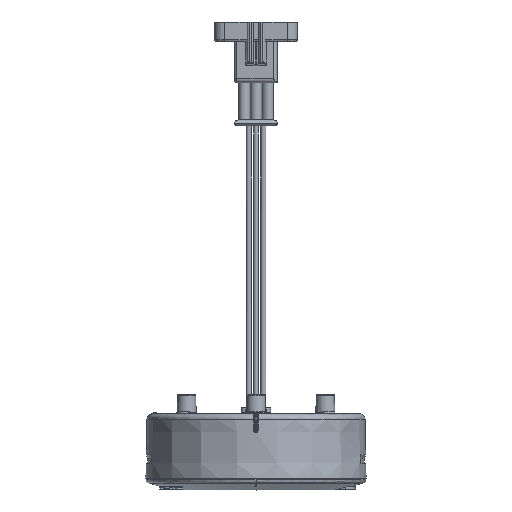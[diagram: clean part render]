
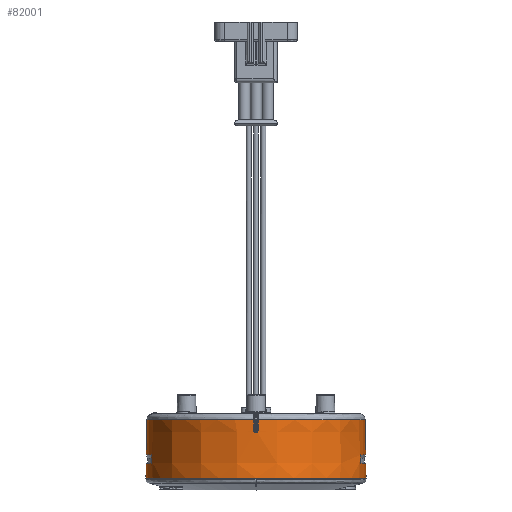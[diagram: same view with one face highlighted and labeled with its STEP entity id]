
A CAD part, front view. The second image highlights one B-rep face of the part: STEP entity #82001.
In plain terms, the highlighted face is a revolution surface.
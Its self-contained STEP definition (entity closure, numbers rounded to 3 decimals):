
#81849=AXIS2_PLACEMENT_3D('Circle Axis2P3D',#81847,#81848,$) ;
#81865=AXIS2_PLACEMENT_3D('Circle Axis2P3D',#81863,#81864,$) ;
#81879=AXIS2_PLACEMENT_3D('Circle Axis2P3D',#81877,#81878,$) ;
#81893=AXIS2_PLACEMENT_3D('Circle Axis2P3D',#81891,#81892,$) ;
#81907=AXIS2_PLACEMENT_3D('Circle Axis2P3D',#81905,#81906,$) ;
#81921=AXIS2_PLACEMENT_3D('Circle Axis2P3D',#81919,#81920,$) ;
#81946=AXIS2_PLACEMENT_3D('Circle Axis2P3D',#81944,#81945,$) ;
#81971=AXIS2_PLACEMENT_3D('Circle Axis2P3D',#81969,#81970,$) ;
#81841=CARTESIAN_POINT('Control Point',(-55.642,0.,12.713)) ;
#81842=CARTESIAN_POINT('Control Point',(-56.163,0.,-17.089)) ;
#81843=CARTESIAN_POINT('Axis1P Location',(0.,0.,982.911)) ;
#81847=CARTESIAN_POINT('Axis2P3D Location',(0.,0.,-5.237)) ;
#81851=CARTESIAN_POINT('Vertex',(53.366,-16.826,-5.237)) ;
#81853=CARTESIAN_POINT('Vertex',(55.956,0.,-5.237)) ;
#81856=CARTESIAN_POINT('Line Origine',(53.315,-16.81,-2.188)) ;
#81860=CARTESIAN_POINT('Vertex',(53.438,-16.849,-9.589)) ;
#81863=CARTESIAN_POINT('Axis2P3D Location',(0.,0.,-9.589)) ;
#81867=CARTESIAN_POINT('Vertex',(56.032,0.,-9.589)) ;
#81870=CARTESIAN_POINT('Line Origine',(55.902,0.,-2.188)) ;
#81874=CARTESIAN_POINT('Vertex',(56.163,0.,-17.089)) ;
#81877=CARTESIAN_POINT('Axis2P3D Location',(0.,0.,-17.089)) ;
#81881=CARTESIAN_POINT('Vertex',(-56.163,0.,-17.089)) ;
#81884=CARTESIAN_POINT('Line Origine',(-55.902,0.,-2.188)) ;
#81888=CARTESIAN_POINT('Vertex',(-56.032,0.,-9.589)) ;
#81891=CARTESIAN_POINT('Axis2P3D Location',(0.,0.,-9.589)) ;
#81895=CARTESIAN_POINT('Vertex',(-53.438,-16.849,-9.589)) ;
#81898=CARTESIAN_POINT('Line Origine',(-53.315,-16.81,-2.188)) ;
#81902=CARTESIAN_POINT('Vertex',(-53.366,-16.826,-5.237)) ;
#81905=CARTESIAN_POINT('Axis2P3D Location',(0.,0.,-5.237)) ;
#81909=CARTESIAN_POINT('Vertex',(-55.956,0.,-5.237)) ;
#81912=CARTESIAN_POINT('Line Origine',(-55.902,0.,-2.188)) ;
#81916=CARTESIAN_POINT('Vertex',(-55.642,0.,12.713)) ;
#81919=CARTESIAN_POINT('Axis2P3D Location',(0.,0.,12.713)) ;
#81923=CARTESIAN_POINT('Vertex',(-1.188,-55.63,12.713)) ;
#81927=CARTESIAN_POINT('Control Point',(-1.092,-55.729,7.135)) ;
#81928=CARTESIAN_POINT('Control Point',(-1.124,-55.696,8.994)) ;
#81929=CARTESIAN_POINT('Control Point',(-1.156,-55.663,10.854)) ;
#81930=CARTESIAN_POINT('Control Point',(-1.188,-55.63,12.713)) ;
#81931=CARTESIAN_POINT('Vertex',(-1.092,-55.729,7.135)) ;
#81935=CARTESIAN_POINT('Control Point',(-0.101,-55.757,6.152)) ;
#81936=CARTESIAN_POINT('Control Point',(-0.41,-55.756,6.151)) ;
#81937=CARTESIAN_POINT('Control Point',(-0.724,-55.751,6.276)) ;
#81938=CARTESIAN_POINT('Control Point',(-0.956,-55.742,6.517)) ;
#81939=CARTESIAN_POINT('Control Point',(-1.089,-55.734,6.825)) ;
#81940=CARTESIAN_POINT('Control Point',(-1.092,-55.729,7.135)) ;
#81941=CARTESIAN_POINT('Vertex',(-0.101,-55.757,6.152)) ;
#81944=CARTESIAN_POINT('Axis2P3D Location',(0.,0.,6.152)) ;
#81948=CARTESIAN_POINT('Vertex',(0.101,-55.757,6.152)) ;
#81952=CARTESIAN_POINT('Control Point',(1.092,-55.729,7.135)) ;
#81953=CARTESIAN_POINT('Control Point',(1.087,-55.734,6.825)) ;
#81954=CARTESIAN_POINT('Control Point',(0.961,-55.742,6.513)) ;
#81955=CARTESIAN_POINT('Control Point',(0.72,-55.751,6.281)) ;
#81956=CARTESIAN_POINT('Control Point',(0.41,-55.756,6.149)) ;
#81957=CARTESIAN_POINT('Control Point',(0.101,-55.757,6.152)) ;
#81958=CARTESIAN_POINT('Vertex',(1.092,-55.729,7.135)) ;
#81962=CARTESIAN_POINT('Control Point',(1.188,-55.63,12.713)) ;
#81963=CARTESIAN_POINT('Control Point',(1.156,-55.663,10.854)) ;
#81964=CARTESIAN_POINT('Control Point',(1.124,-55.696,8.994)) ;
#81965=CARTESIAN_POINT('Control Point',(1.092,-55.729,7.135)) ;
#81966=CARTESIAN_POINT('Vertex',(1.188,-55.63,12.713)) ;
#81969=CARTESIAN_POINT('Axis2P3D Location',(0.,0.,12.713)) ;
#81973=CARTESIAN_POINT('Vertex',(55.642,0.,12.713)) ;
#81976=CARTESIAN_POINT('Line Origine',(55.902,0.,-2.188)) ;
#81844=DIRECTION('Axis1P Direction',(0.,0.,-1.)) ;
#81848=DIRECTION('Axis2P3D Direction',(0.,0.,-1.)) ;
#81857=DIRECTION('Vector Direction',(0.017,-0.005,-1.)) ;
#81864=DIRECTION('Axis2P3D Direction',(0.,0.,-1.)) ;
#81871=DIRECTION('Vector Direction',(0.017,0.,-1.)) ;
#81878=DIRECTION('Axis2P3D Direction',(0.,0.,-1.)) ;
#81885=DIRECTION('Vector Direction',(-0.017,0.,-1.)) ;
#81892=DIRECTION('Axis2P3D Direction',(0.,0.,-1.)) ;
#81899=DIRECTION('Vector Direction',(-0.017,-0.005,-1.)) ;
#81906=DIRECTION('Axis2P3D Direction',(0.,0.,-1.)) ;
#81913=DIRECTION('Vector Direction',(-0.017,0.,-1.)) ;
#81920=DIRECTION('Axis2P3D Direction',(0.,0.,-1.)) ;
#81945=DIRECTION('Axis2P3D Direction',(0.,0.,-1.)) ;
#81970=DIRECTION('Axis2P3D Direction',(0.,0.,-1.)) ;
#81977=DIRECTION('Vector Direction',(0.017,0.,-1.)) ;
#81858=VECTOR('Line Direction',#81857,1.) ;
#81872=VECTOR('Line Direction',#81871,1.) ;
#81886=VECTOR('Line Direction',#81885,1.) ;
#81900=VECTOR('Line Direction',#81899,1.) ;
#81914=VECTOR('Line Direction',#81913,1.) ;
#81978=VECTOR('Line Direction',#81977,1.) ;
#81845=AXIS1_PLACEMENT('Revolution Surface Axis1P',#81843,#81844) ;
#81982=ORIENTED_EDGE('',*,*,#81855,.F.) ;
#81983=ORIENTED_EDGE('',*,*,#81862,.F.) ;
#81984=ORIENTED_EDGE('',*,*,#81869,.F.) ;
#81985=ORIENTED_EDGE('',*,*,#81876,.F.) ;
#81986=ORIENTED_EDGE('',*,*,#81883,.F.) ;
#81987=ORIENTED_EDGE('',*,*,#81890,.F.) ;
#81988=ORIENTED_EDGE('',*,*,#81897,.F.) ;
#81989=ORIENTED_EDGE('',*,*,#81904,.F.) ;
#81990=ORIENTED_EDGE('',*,*,#81911,.F.) ;
#81991=ORIENTED_EDGE('',*,*,#81918,.F.) ;
#81992=ORIENTED_EDGE('',*,*,#81925,.F.) ;
#81993=ORIENTED_EDGE('',*,*,#81933,.F.) ;
#81994=ORIENTED_EDGE('',*,*,#81943,.F.) ;
#81995=ORIENTED_EDGE('',*,*,#81950,.F.) ;
#81996=ORIENTED_EDGE('',*,*,#81960,.F.) ;
#81997=ORIENTED_EDGE('',*,*,#81968,.F.) ;
#81998=ORIENTED_EDGE('',*,*,#81975,.F.) ;
#81999=ORIENTED_EDGE('',*,*,#81980,.F.) ;
#82001=ADVANCED_FACE('Surface.5169',(#82000),#81846,.F.) ;
#81840=B_SPLINE_CURVE_WITH_KNOTS('',1,(#81841,#81842),.UNSPECIFIED.,.F.,.U.,(2,2),(-14.903,14.903),.UNSPECIFIED.) ;
#81926=B_SPLINE_CURVE_WITH_KNOTS('',3,(#81927,#81928,#81929,#81930),.UNSPECIFIED.,.F.,.U.,(4,4),(0.,7.892),.UNSPECIFIED.) ;
#81934=B_SPLINE_CURVE_WITH_KNOTS('',5,(#81935,#81936,#81937,#81938,#81939,#81940),.UNSPECIFIED.,.F.,.U.,(6,6),(0.,2.195),.UNSPECIFIED.) ;
#81951=B_SPLINE_CURVE_WITH_KNOTS('',5,(#81952,#81953,#81954,#81955,#81956,#81957),.UNSPECIFIED.,.F.,.U.,(6,6),(0.,2.195),.UNSPECIFIED.) ;
#81961=B_SPLINE_CURVE_WITH_KNOTS('',3,(#81962,#81963,#81964,#81965),.UNSPECIFIED.,.F.,.U.,(4,4),(0.,7.892),.UNSPECIFIED.) ;
#81850=CIRCLE('generated circle',#81849,55.956) ;
#81866=CIRCLE('generated circle',#81865,56.032) ;
#81880=CIRCLE('generated circle',#81879,56.163) ;
#81894=CIRCLE('generated circle',#81893,56.032) ;
#81908=CIRCLE('generated circle',#81907,55.956) ;
#81922=CIRCLE('generated circle',#81921,55.642) ;
#81947=CIRCLE('generated circle',#81946,55.757) ;
#81972=CIRCLE('generated circle',#81971,55.642) ;
#81855=EDGE_CURVE('',#81852,#81854,#81850,.F.) ;
#81862=EDGE_CURVE('',#81861,#81852,#81859,.F.) ;
#81869=EDGE_CURVE('',#81868,#81861,#81866,.T.) ;
#81876=EDGE_CURVE('',#81875,#81868,#81873,.F.) ;
#81883=EDGE_CURVE('',#81882,#81875,#81880,.F.) ;
#81890=EDGE_CURVE('',#81889,#81882,#81887,.T.) ;
#81897=EDGE_CURVE('',#81896,#81889,#81894,.T.) ;
#81904=EDGE_CURVE('',#81903,#81896,#81901,.T.) ;
#81911=EDGE_CURVE('',#81910,#81903,#81908,.F.) ;
#81918=EDGE_CURVE('',#81917,#81910,#81915,.T.) ;
#81925=EDGE_CURVE('',#81924,#81917,#81922,.T.) ;
#81933=EDGE_CURVE('',#81932,#81924,#81926,.T.) ;
#81943=EDGE_CURVE('',#81942,#81932,#81934,.T.) ;
#81950=EDGE_CURVE('',#81949,#81942,#81947,.T.) ;
#81960=EDGE_CURVE('',#81959,#81949,#81951,.T.) ;
#81968=EDGE_CURVE('',#81967,#81959,#81961,.T.) ;
#81975=EDGE_CURVE('',#81974,#81967,#81972,.T.) ;
#81980=EDGE_CURVE('',#81854,#81974,#81979,.F.) ;
#81981=EDGE_LOOP('',(#81982,#81983,#81984,#81985,#81986,#81987,#81988,#81989,#81990,#81991,#81992,#81993,#81994,#81995,#81996,#81997,#81998,#81999)) ;
#82000=FACE_OUTER_BOUND('',#81981,.T.) ;
#81859=LINE('Line',#81856,#81858) ;
#81873=LINE('Line',#81870,#81872) ;
#81887=LINE('Line',#81884,#81886) ;
#81901=LINE('Line',#81898,#81900) ;
#81915=LINE('Line',#81912,#81914) ;
#81979=LINE('Line',#81976,#81978) ;
#81846=SURFACE_OF_REVOLUTION('Surface of Revolution',#81840,#81845) ;
#81852=VERTEX_POINT('',#81851) ;
#81854=VERTEX_POINT('',#81853) ;
#81861=VERTEX_POINT('',#81860) ;
#81868=VERTEX_POINT('',#81867) ;
#81875=VERTEX_POINT('',#81874) ;
#81882=VERTEX_POINT('',#81881) ;
#81889=VERTEX_POINT('',#81888) ;
#81896=VERTEX_POINT('',#81895) ;
#81903=VERTEX_POINT('',#81902) ;
#81910=VERTEX_POINT('',#81909) ;
#81917=VERTEX_POINT('',#81916) ;
#81924=VERTEX_POINT('',#81923) ;
#81932=VERTEX_POINT('',#81931) ;
#81942=VERTEX_POINT('',#81941) ;
#81949=VERTEX_POINT('',#81948) ;
#81959=VERTEX_POINT('',#81958) ;
#81967=VERTEX_POINT('',#81966) ;
#81974=VERTEX_POINT('',#81973) ;
